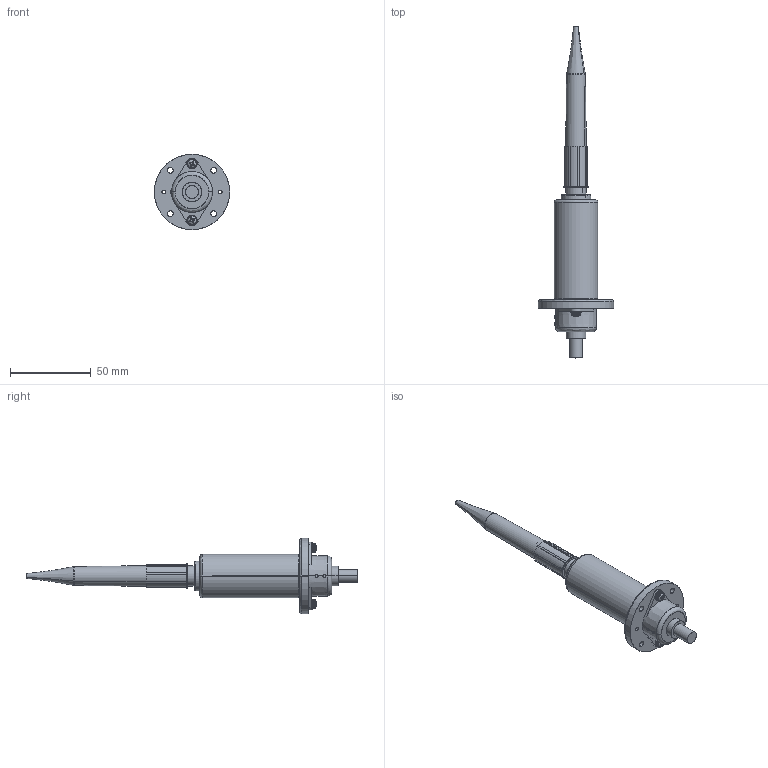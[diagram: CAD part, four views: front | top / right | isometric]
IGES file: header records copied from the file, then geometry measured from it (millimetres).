
Start section: SolidWorks IGES file using analytic representation for surfaces
Global section: file name: C:\SWPDM\GDT\TriContinent\Production Docs\MOD\Assembly Web\MOD91003\MOD91003 RD.IGS; native system: SolidWorks 2017; preprocessor: SolidWorks 2017; author: wlg2015; date: 180418.102653; units: inch
Bounding box: 46.74 x 205.99 x 46.74 mm (x, y, z)
Surface area: 28977 mm2 (no closed solid volume)
Topology: 0 solids, 0 shells, 2473 faces, 17559 edges, 17559 vertices
Faces by surface type: bspline 1642, revolution 831
